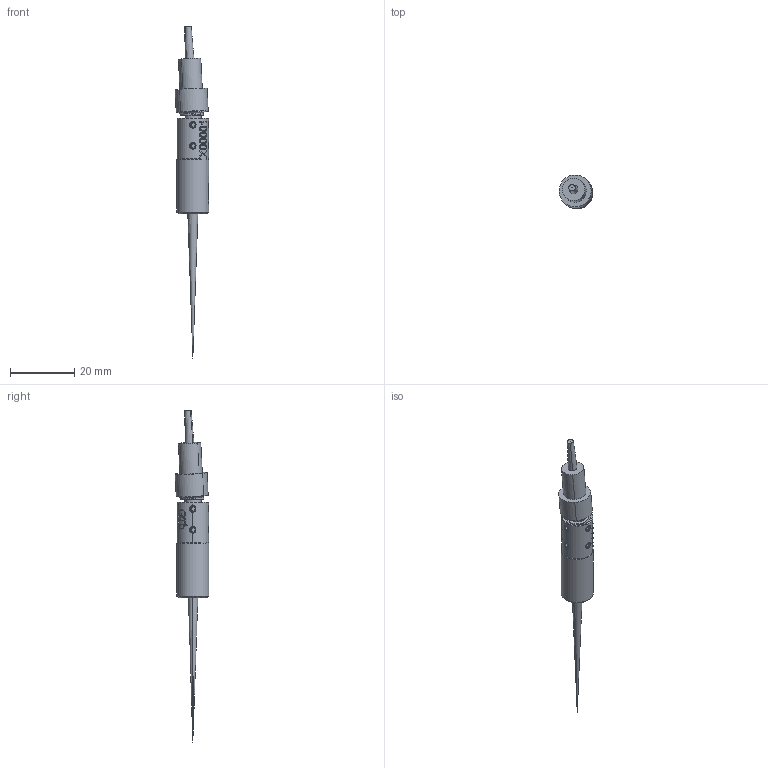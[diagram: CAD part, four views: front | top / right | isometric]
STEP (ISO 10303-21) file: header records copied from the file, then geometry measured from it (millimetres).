
FILE_DESCRIPTION (( 'STEP AP203' ), '1' );
FILE_NAME ('7111205.000-AA IMP-TH45 Interferometrischer Dickensensor_STEP.STEP', '2020-07-23T11:15:29', ( '' ), ( '' ), 'SwSTEP 2.0', 'SolidWorks 2018', '' );
FILE_SCHEMA (( 'CONFIG_CONTROL_DESIGN' ));
Length unit declared in the file: millimetre
Products named in the file (2): 7111205.000-AA  IMP-TH45 Interferometrischer Dickensensor_STEP
Bounding box: 10.52 x 10.52 x 103.48 mm (x, y, z)
Volume: 3419.2 mm3; surface area: 2552.6 mm2
Topology: 3 solids, 5 shells, 390 faces, 982 edges, 641 vertices
Faces by surface type: bspline 129, plane 123, cylinder 70, cone 60, sphere 8
Entity records: 24694 total; most frequent: CARTESIAN_POINT 16333, ORIENTED_EDGE 1960, DIRECTION 1235, EDGE_CURVE 980, VERTEX_POINT 641, AXIS2_PLACEMENT_3D 462, B_SPLINE_CURVE_WITH_KNOTS 449, EDGE_LOOP 435
